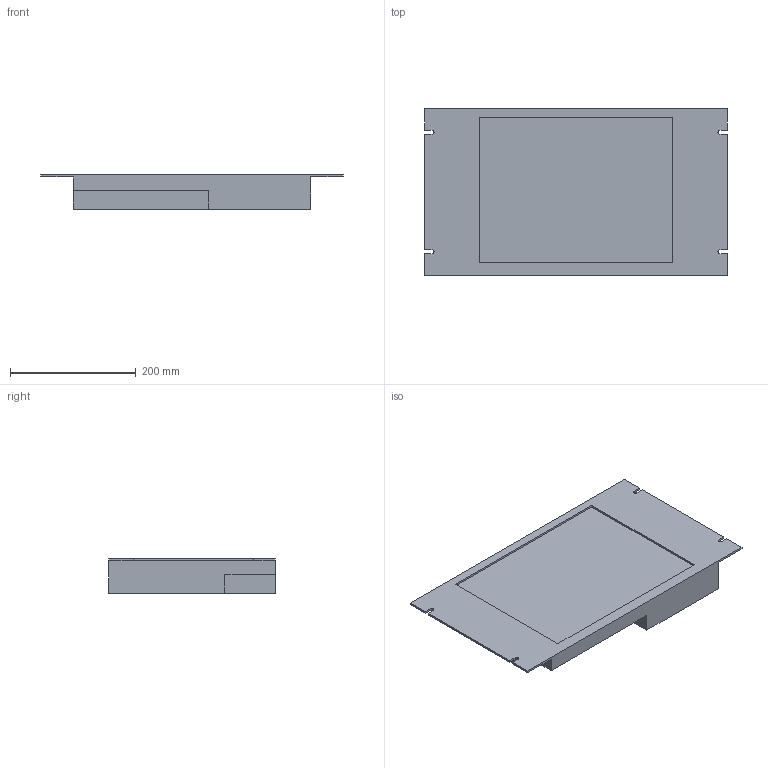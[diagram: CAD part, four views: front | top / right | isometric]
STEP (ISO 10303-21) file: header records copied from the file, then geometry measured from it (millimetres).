
FILE_DESCRIPTION (( 'STEP AP214' ), '1' );
FILE_NAME ('15 inch Rack Mount Monitor, HIS-RL15-xxxH.STEP', '2021-03-18T14:15:26', ( '' ), ( '' ), 'SwSTEP 2.0', 'SolidWorks 2020', '' );
FILE_SCHEMA (( 'AUTOMOTIVE_DESIGN' ));
Length unit declared in the file: inch
Products named in the file (1): 15 inch Rack Mount Monitor, HIS-RL15-xxxH
Bounding box: 482.6 x 265.43 x 54.36 mm (x, y, z)
Volume: 4806406.6 mm3; surface area: 332248.9 mm2
Topology: 1 solids, 1 shells, 811 faces, 1947 edges, 1298 vertices
Faces by surface type: plane 785, cylinder 26
Entity records: 23133 total; most frequent: CARTESIAN_POINT 4057, ORIENTED_EDGE 3894, DIRECTION 3623, EDGE_CURVE 1947, LINE 1895, VECTOR 1895, VERTEX_POINT 1298, EDGE_LOOP 971
